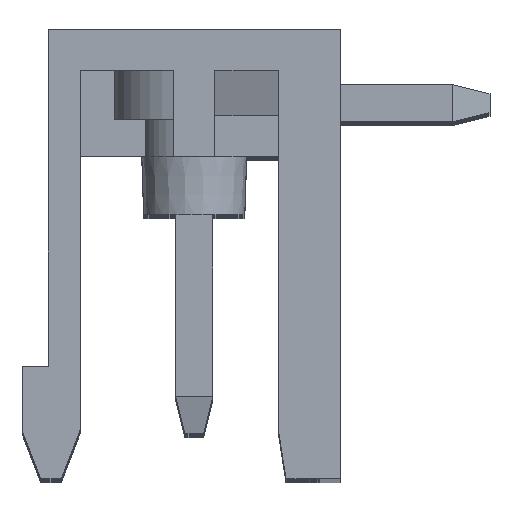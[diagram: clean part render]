
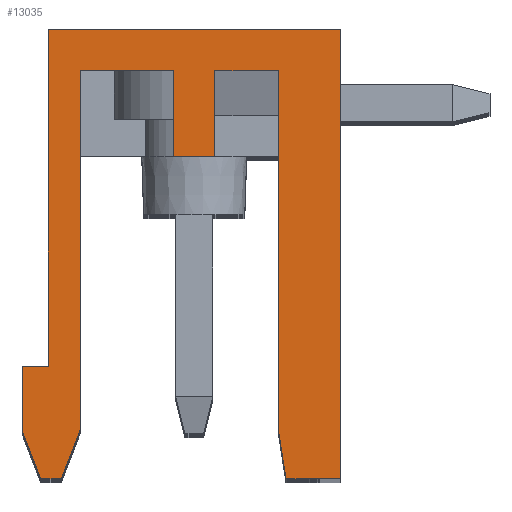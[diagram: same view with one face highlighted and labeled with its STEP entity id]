
A CAD part, top view. The second image highlights one B-rep face of the part: STEP entity #13035.
In plain terms, the highlighted planar face has unit normal (0, 0, 1).
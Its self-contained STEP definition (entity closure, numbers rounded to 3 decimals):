
#109 = VECTOR ( 'NONE', #25548, 1000. ) ;
#320 = CARTESIAN_POINT ( 'NONE',  ( -4.6, 1.3, 60.96 ) ) ;
#438 = VECTOR ( 'NONE', #10371, 1000. ) ;
#707 = VERTEX_POINT ( 'NONE', #11124 ) ;
#969 = EDGE_CURVE ( 'NONE', #3089, #15038, #21925, .T. ) ;
#1000 = ORIENTED_EDGE ( 'NONE', *, *, #3195, .T. ) ;
#1248 = DIRECTION ( 'NONE',  ( 0., -1., 0. ) ) ;
#1404 = VERTEX_POINT ( 'NONE', #22785 ) ;
#1428 = CARTESIAN_POINT ( 'NONE',  ( -4.6, 3., 60.96 ) ) ;
#1835 = CARTESIAN_POINT ( 'NONE',  ( -3.9, 12., 60.96 ) ) ;
#1873 = LINE ( 'NONE', #25194, #20653 ) ;
#1895 = ORIENTED_EDGE ( 'NONE', *, *, #5594, .T. ) ;
#2030 = VERTEX_POINT ( 'NONE', #320 ) ;
#2334 = VECTOR ( 'NONE', #27902, 1000. ) ;
#2428 = LINE ( 'NONE', #4274, #22568 ) ;
#3089 = VERTEX_POINT ( 'NONE', #4454 ) ;
#3195 = EDGE_CURVE ( 'NONE', #13374, #28819, #9783, .T. ) ;
#3347 = VERTEX_POINT ( 'NONE', #22570 ) ;
#4140 = ORIENTED_EDGE ( 'NONE', *, *, #18436, .T. ) ;
#4170 = EDGE_CURVE ( 'NONE', #3347, #12114, #14637, .T. ) ;
#4274 = CARTESIAN_POINT ( 'NONE',  ( 2.45, 0., 60.96 ) ) ;
#4454 = CARTESIAN_POINT ( 'NONE',  ( 0.55, 8.6, 60.96 ) ) ;
#4461 = EDGE_CURVE ( 'NONE', #25357, #13314, #20833, .T. ) ;
#4509 = DIRECTION ( 'NONE',  ( 1., 0., 0. ) ) ;
#4554 = VERTEX_POINT ( 'NONE', #16123 ) ;
#4658 = CARTESIAN_POINT ( 'NONE',  ( 0.55, 10.9, 60.96 ) ) ;
#4939 = LINE ( 'NONE', #30099, #23480 ) ;
#5270 = CARTESIAN_POINT ( 'NONE',  ( 2.25, 10.9, 60.96 ) ) ;
#5594 = EDGE_CURVE ( 'NONE', #707, #3347, #10692, .T. ) ;
#5615 = EDGE_CURVE ( 'NONE', #28819, #25357, #2428, .T. ) ;
#5937 = AXIS2_PLACEMENT_3D ( 'NONE', #14210, #16949, #19224 ) ;
#5948 = VECTOR ( 'NONE', #12952, 1000. ) ;
#6241 = CARTESIAN_POINT ( 'NONE',  ( -4.6, 3., 60.96 ) ) ;
#6297 = EDGE_CURVE ( 'NONE', #13314, #707, #1873, .T. ) ;
#6732 = EDGE_CURVE ( 'NONE', #17436, #13374, #27442, .T. ) ;
#7631 = DIRECTION ( 'NONE',  ( -0.359, -0.933, 0. ) ) ;
#7921 = VECTOR ( 'NONE', #10235, 1000. ) ;
#8158 = ORIENTED_EDGE ( 'NONE', *, *, #14264, .T. ) ;
#8440 = DIRECTION ( 'NONE',  ( -1., 0., 0. ) ) ;
#8579 = DIRECTION ( 'NONE',  ( 0., -1., 0. ) ) ;
#8600 = ORIENTED_EDGE ( 'NONE', *, *, #4170, .T. ) ;
#8987 = VECTOR ( 'NONE', #1248, 1000. ) ;
#9070 = VECTOR ( 'NONE', #8579, 1000. ) ;
#9339 = ORIENTED_EDGE ( 'NONE', *, *, #4461, .T. ) ;
#9740 = EDGE_CURVE ( 'NONE', #12636, #2030, #23398, .T. ) ;
#9765 = CARTESIAN_POINT ( 'NONE',  ( 0.55, 8.6, 60.96 ) ) ;
#9783 = LINE ( 'NONE', #26546, #7921 ) ;
#10066 = LINE ( 'NONE', #21953, #21379 ) ;
#10235 = DIRECTION ( 'NONE',  ( 0.152, -0.988, 0. ) ) ;
#10338 = CARTESIAN_POINT ( 'NONE',  ( 0.55, 8.6, 60.96 ) ) ;
#10371 = DIRECTION ( 'NONE',  ( -1., 0., 0. ) ) ;
#10507 = EDGE_CURVE ( 'NONE', #12636, #10993, #23185, .T. ) ;
#10612 = EDGE_CURVE ( 'NONE', #3089, #4554, #12830, .T. ) ;
#10643 = EDGE_CURVE ( 'NONE', #1404, #10993, #10066, .T. ) ;
#10692 = LINE ( 'NONE', #1835, #10881 ) ;
#10734 = CARTESIAN_POINT ( 'NONE',  ( -0.55, 10.9, 60.96 ) ) ;
#10881 = VECTOR ( 'NONE', #13591, 1000. ) ;
#10993 = VERTEX_POINT ( 'NONE', #19750 ) ;
#11124 = CARTESIAN_POINT ( 'NONE',  ( -3.9, 12., 60.96 ) ) ;
#11538 = CARTESIAN_POINT ( 'NONE',  ( 3.9, 0., 60.96 ) ) ;
#11667 = CARTESIAN_POINT ( 'NONE',  ( -4.1, 0., 60.96 ) ) ;
#11924 = ORIENTED_EDGE ( 'NONE', *, *, #6732, .T. ) ;
#12114 = VERTEX_POINT ( 'NONE', #6241 ) ;
#12519 = VERTEX_POINT ( 'NONE', #22954 ) ;
#12636 = VERTEX_POINT ( 'NONE', #16836 ) ;
#12685 = ORIENTED_EDGE ( 'NONE', *, *, #10612, .F. ) ;
#12830 = LINE ( 'NONE', #9765, #438 ) ;
#12889 = DIRECTION ( 'NONE',  ( -1., 0., 0. ) ) ;
#12895 = ORIENTED_EDGE ( 'NONE', *, *, #969, .T. ) ;
#12952 = DIRECTION ( 'NONE',  ( -1., 0., 0. ) ) ;
#13035 = ADVANCED_FACE ( 'NONE', ( #18922 ), #23795, .T. ) ;
#13314 = VERTEX_POINT ( 'NONE', #18288 ) ;
#13374 = VERTEX_POINT ( 'NONE', #29719 ) ;
#13591 = DIRECTION ( 'NONE',  ( 0., -1., 0. ) ) ;
#14190 = EDGE_CURVE ( 'NONE', #12519, #1404, #25507, .T. ) ;
#14210 = CARTESIAN_POINT ( 'NONE',  ( -10.2, 16.267, 60.96 ) ) ;
#14264 = EDGE_CURVE ( 'NONE', #23322, #4554, #4939, .T. ) ;
#14637 = LINE ( 'NONE', #21775, #5948 ) ;
#14782 = DIRECTION ( 'NONE',  ( 0., 1., 0. ) ) ;
#15038 = VERTEX_POINT ( 'NONE', #16725 ) ;
#16123 = CARTESIAN_POINT ( 'NONE',  ( -0.55, 8.6, 60.96 ) ) ;
#16313 = VECTOR ( 'NONE', #4509, 1000. ) ;
#16696 = VECTOR ( 'NONE', #18965, 1000. ) ;
#16725 = CARTESIAN_POINT ( 'NONE',  ( 0.55, 10.9, 60.96 ) ) ;
#16836 = CARTESIAN_POINT ( 'NONE',  ( -4.1, 0., 60.96 ) ) ;
#16949 = DIRECTION ( 'NONE',  ( 0., 0., 1. ) ) ;
#17022 = ORIENTED_EDGE ( 'NONE', *, *, #10507, .T. ) ;
#17436 = VERTEX_POINT ( 'NONE', #5270 ) ;
#18288 = CARTESIAN_POINT ( 'NONE',  ( 3.9, 12., 60.96 ) ) ;
#18397 = ORIENTED_EDGE ( 'NONE', *, *, #14190, .F. ) ;
#18436 = EDGE_CURVE ( 'NONE', #15038, #17436, #27376, .T. ) ;
#18627 = CARTESIAN_POINT ( 'NONE',  ( -0.55, 10.9, 60.96 ) ) ;
#18661 = DIRECTION ( 'NONE',  ( 0., -1., 0. ) ) ;
#18922 = FACE_OUTER_BOUND ( 'NONE', #23402, .T. ) ;
#18965 = DIRECTION ( 'NONE',  ( 0., -1., 0. ) ) ;
#19224 = DIRECTION ( 'NONE',  ( 1., 0., 0. ) ) ;
#19455 = ORIENTED_EDGE ( 'NONE', *, *, #5615, .T. ) ;
#19750 = CARTESIAN_POINT ( 'NONE',  ( -3.55, 0., 60.96 ) ) ;
#20034 = EDGE_CURVE ( 'NONE', #12114, #2030, #22312, .T. ) ;
#20036 = LINE ( 'NONE', #10734, #27195 ) ;
#20350 = ORIENTED_EDGE ( 'NONE', *, *, #6297, .T. ) ;
#20653 = VECTOR ( 'NONE', #8440, 1000. ) ;
#20833 = LINE ( 'NONE', #11538, #109 ) ;
#20898 = CARTESIAN_POINT ( 'NONE',  ( -4.1, 0., 60.96 ) ) ;
#20990 = CARTESIAN_POINT ( 'NONE',  ( 3.9, 0., 60.96 ) ) ;
#21379 = VECTOR ( 'NONE', #7631, 1000. ) ;
#21775 = CARTESIAN_POINT ( 'NONE',  ( -3.9, 3., 60.96 ) ) ;
#21925 = LINE ( 'NONE', #10338, #26316 ) ;
#21953 = CARTESIAN_POINT ( 'NONE',  ( -3.05, 1.3, 60.96 ) ) ;
#22312 = LINE ( 'NONE', #1428, #9070 ) ;
#22447 = ORIENTED_EDGE ( 'NONE', *, *, #10643, .F. ) ;
#22568 = VECTOR ( 'NONE', #30173, 1000. ) ;
#22570 = CARTESIAN_POINT ( 'NONE',  ( -3.9, 3., 60.96 ) ) ;
#22785 = CARTESIAN_POINT ( 'NONE',  ( -3.05, 1.3, 60.96 ) ) ;
#22935 = EDGE_CURVE ( 'NONE', #23322, #12519, #20036, .T. ) ;
#22954 = CARTESIAN_POINT ( 'NONE',  ( -3.05, 10.9, 60.96 ) ) ;
#23185 = LINE ( 'NONE', #20898, #2334 ) ;
#23230 = CARTESIAN_POINT ( 'NONE',  ( -3.05, 10.9, 60.96 ) ) ;
#23322 = VERTEX_POINT ( 'NONE', #18627 ) ;
#23398 = LINE ( 'NONE', #11667, #26155 ) ;
#23402 = EDGE_LOOP ( 'NONE', ( #9339, #20350, #1895, #8600, #28129, #23497, #17022, #22447, #18397, #28519, #8158, #12685, #12895, #4140, #11924, #1000, #19455 ) ) ;
#23480 = VECTOR ( 'NONE', #18661, 1000. ) ;
#23497 = ORIENTED_EDGE ( 'NONE', *, *, #9740, .F. ) ;
#23794 = CARTESIAN_POINT ( 'NONE',  ( 2.45, 0., 60.96 ) ) ;
#23795 = PLANE ( 'NONE',  #5937 ) ;
#24858 = CARTESIAN_POINT ( 'NONE',  ( 2.25, 10.9, 60.96 ) ) ;
#25194 = CARTESIAN_POINT ( 'NONE',  ( 3.9, 12., 60.96 ) ) ;
#25357 = VERTEX_POINT ( 'NONE', #20990 ) ;
#25507 = LINE ( 'NONE', #23230, #16696 ) ;
#25529 = DIRECTION ( 'NONE',  ( -0.359, 0.933, 0. ) ) ;
#25548 = DIRECTION ( 'NONE',  ( 0., 1., 0. ) ) ;
#26155 = VECTOR ( 'NONE', #25529, 1000. ) ;
#26316 = VECTOR ( 'NONE', #14782, 1000. ) ;
#26546 = CARTESIAN_POINT ( 'NONE',  ( 2.25, 1.3, 60.96 ) ) ;
#27195 = VECTOR ( 'NONE', #12889, 1000. ) ;
#27376 = LINE ( 'NONE', #4658, #16313 ) ;
#27442 = LINE ( 'NONE', #24858, #8987 ) ;
#27902 = DIRECTION ( 'NONE',  ( 1., 0., 0. ) ) ;
#28129 = ORIENTED_EDGE ( 'NONE', *, *, #20034, .T. ) ;
#28519 = ORIENTED_EDGE ( 'NONE', *, *, #22935, .F. ) ;
#28819 = VERTEX_POINT ( 'NONE', #23794 ) ;
#29719 = CARTESIAN_POINT ( 'NONE',  ( 2.25, 1.3, 60.96 ) ) ;
#30099 = CARTESIAN_POINT ( 'NONE',  ( -0.55, 10.9, 60.96 ) ) ;
#30173 = DIRECTION ( 'NONE',  ( 1., 0., 0. ) ) ;
